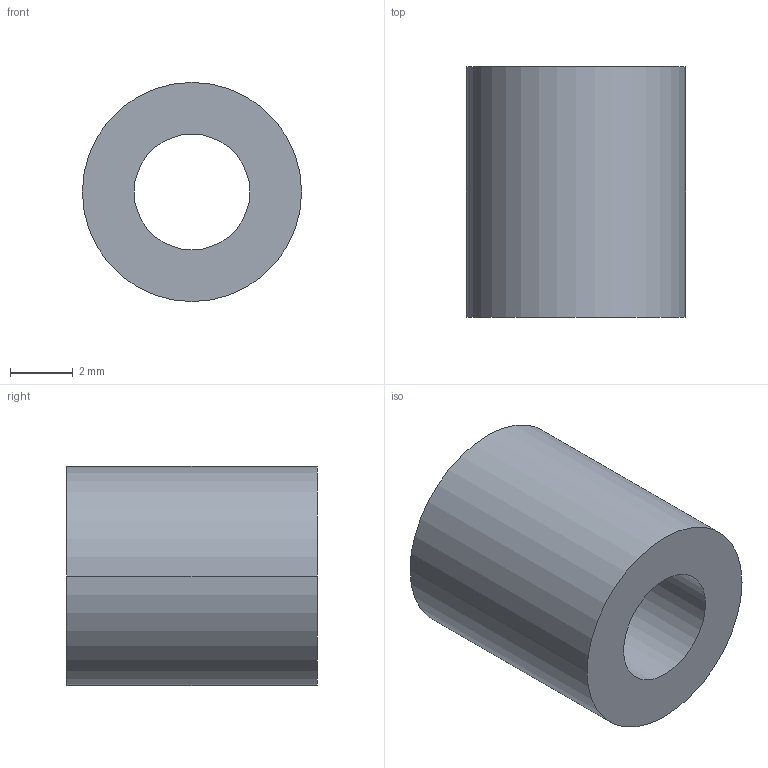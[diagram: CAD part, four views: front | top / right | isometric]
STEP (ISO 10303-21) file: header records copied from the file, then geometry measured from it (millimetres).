
FILE_DESCRIPTION (( 'STEP AP203' ), '1' );
FILE_NAME ('30800.WPP7B3.7.step', '2019-01-23T22:19:32', ( '' ), ( '' ), 'SwSTEP 2.0', 'SolidWorks 2017', '' );
FILE_SCHEMA (( 'CONFIG_CONTROL_DESIGN' ));
Length unit declared in the file: millimetre
Products named in the file (1): 30800.WPP7B3.7
Bounding box: 7 x 8 x 7 mm (x, y, z)
Volume: 219.1 mm3; surface area: 319.8 mm2
Topology: 1 solids, 1 shells, 8 faces, 16 edges, 10 vertices
Faces by surface type: cylinder 4, torus 2, plane 2
Entity records: 297 total; most frequent: DIRECTION 46, CARTESIAN_POINT 35, ORIENTED_EDGE 32, AXIS2_PLACEMENT_3D 21, EDGE_CURVE 16, CIRCLE 12, VERTEX_POINT 10, EDGE_LOOP 10
